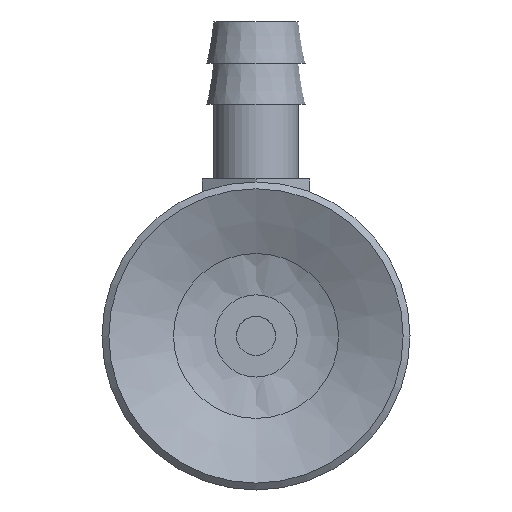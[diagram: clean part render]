
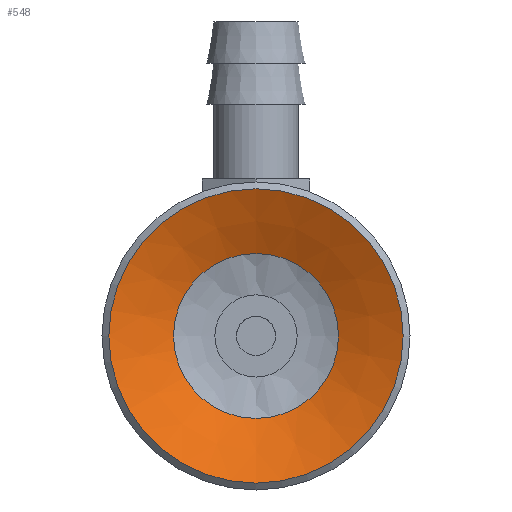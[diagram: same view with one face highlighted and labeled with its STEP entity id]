
A CAD part, front view. The second image highlights one B-rep face of the part: STEP entity #548.
In plain terms, the highlighted conical face has half-angle 65.056 degrees and reference radius 3.2 mm.
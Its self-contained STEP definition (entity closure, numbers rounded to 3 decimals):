
#548=ADVANCED_FACE('',(#810,#811),#812,.F.);
#810=FACE_BOUND('',#1127,.T.);
#811=FACE_OUTER_BOUND('',#1128,.T.);
#812=CONICAL_SURFACE('',#1129,3.2,1.135);
#1127=EDGE_LOOP('',(#1855));
#1128=EDGE_LOOP('',(#1856));
#1129=AXIS2_PLACEMENT_3D('',#1857,#1858,#1859);
#1855=ORIENTED_EDGE('',*,*,#2197,.T.);
#1856=ORIENTED_EDGE('',*,*,#2198,.T.);
#1857=CARTESIAN_POINT('',(0.0,7.896,0.0));
#1858=DIRECTION('',(-0.0,-1.0,0.));
#1859=DIRECTION('',(0.0,0.,-1.0));
#2197=EDGE_CURVE('',#2521,#2521,#2522,.T.);
#2198=EDGE_CURVE('',#2523,#2523,#2524,.T.);
#2521=VERTEX_POINT('',#3265);
#2522=CIRCLE('',#3266,4.203);
#2523=VERTEX_POINT('',#3267);
#2524=CIRCLE('',#3268,7.5);
#3265=CARTESIAN_POINT('',(0.0,7.43,-4.203));
#3266=AXIS2_PLACEMENT_3D('',#3615,#3616,#3617);
#3267=CARTESIAN_POINT('',(0.0,5.896,-7.5));
#3268=AXIS2_PLACEMENT_3D('',#3618,#3619,#3620);
#3615=CARTESIAN_POINT('',(0.0,7.43,0.0));
#3616=DIRECTION('',(0.0,1.0,0.));
#3617=DIRECTION('',(0.0,0.,-1.0));
#3618=CARTESIAN_POINT('',(0.0,5.896,0.0));
#3619=DIRECTION('',(0.0,-1.0,0.));
#3620=DIRECTION('',(0.0,0.,-1.0));
